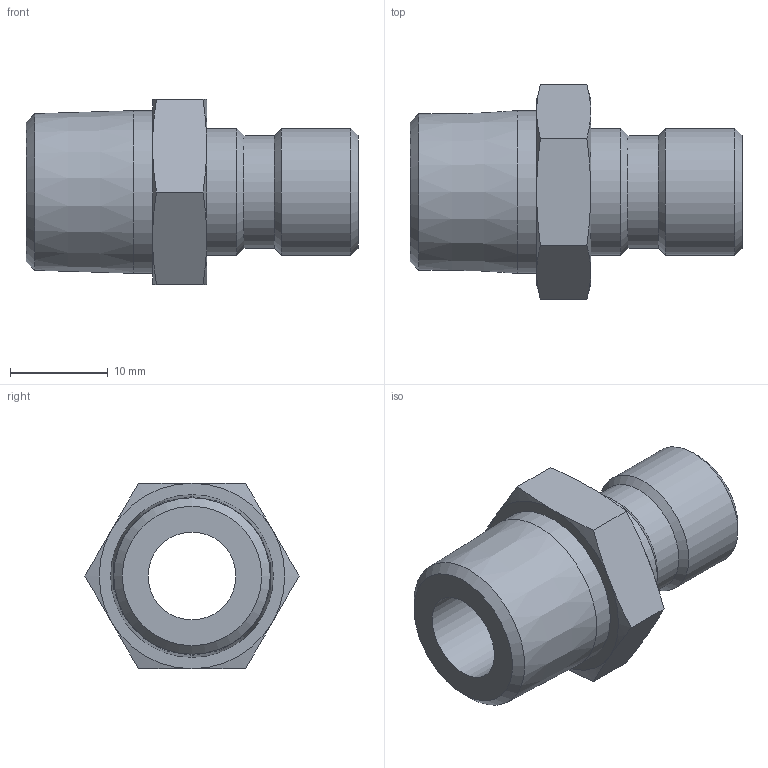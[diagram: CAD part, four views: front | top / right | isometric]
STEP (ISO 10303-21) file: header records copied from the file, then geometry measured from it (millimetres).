
FILE_DESCRIPTION(/* description */ ('STEP AP214'),/* implementation_level */ '2;1');
FILE_NAME(/* name */ 'N938A',/* time_stamp */ '2024-11-26T09:44:33+01:00',/* author */ ('License CC BY-ND 4.0'),/* organization */ ('CADENAS'),/* preprocessor_version */ 'ST-DEVELOPER v19.3',/* originating_system */ 'PARTsolutions',/* authorisation */ ' ');
FILE_SCHEMA (('AUTOMOTIVE_DESIGN {1 0 10303 214 3 1 1}'));
Length unit declared in the file: millimetre
Products named in the file (1): N938A
Bounding box: 34 x 21.94 x 19 mm (x, y, z)
Volume: 4212.3 mm3; surface area: 3052.5 mm2
Topology: 1 solids, 1 shells, 32 faces, 65 edges, 37 vertices
Faces by surface type: cone 17, plane 10, cylinder 5
Full cylindrical faces by diameter (mm): 9 x1, 11.56 x1, 13 x2, 16.662 x1
Entity records: 830 total; most frequent: CARTESIAN_POINT 197, DIRECTION 122, ORIENTED_EDGE 110, AXIS2_PLACEMENT_3D 58, EDGE_CURVE 55, EDGE_LOOP 46, FACE_BOUND 46, VERTEX_POINT 37
